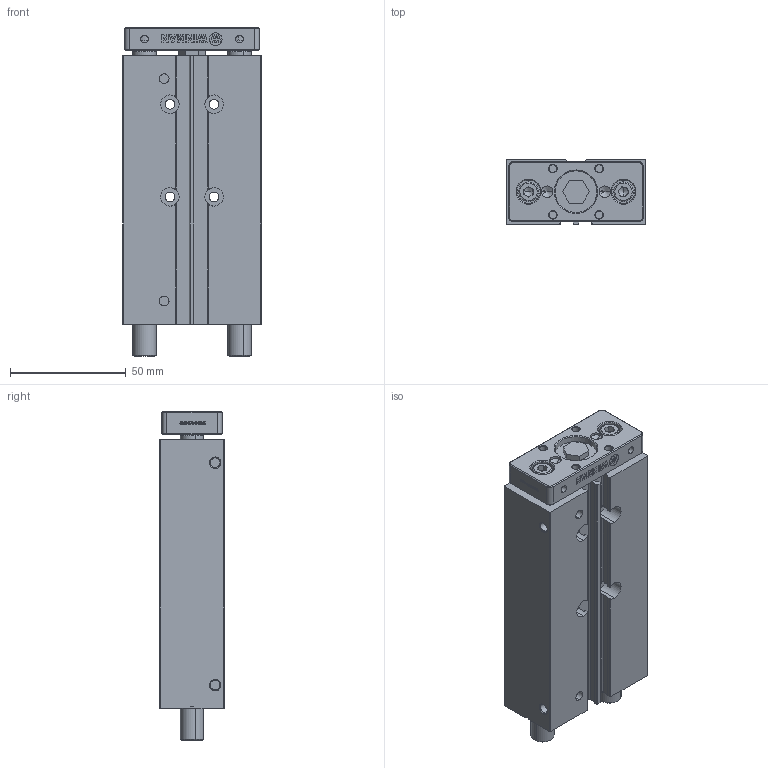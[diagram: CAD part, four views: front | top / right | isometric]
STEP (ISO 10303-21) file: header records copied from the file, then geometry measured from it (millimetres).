
FILE_DESCRIPTION (( 'STEP AP214' ), '1' );
FILE_NAME ('WGC-B-012-0080 (3D).STEP', '2018-10-23T15:33:05', ( 'Hidtek' ), ( '' ), 'SwSTEP 2.0', 'SolidWorks 2016', '' );
FILE_SCHEMA (( 'AUTOMOTIVE_DESIGN' ));
Length unit declared in the file: millimetre
Products named in the file (3): WGC-B-012-0080 (3D); Group1^WGC-B-012-0080 (3D); Group2^WGC-B-012-0080 (3D)
Assembly tree (2 placements, depth 2):
  WGC-B-012-0080 (3D)
    Group1^WGC-B-012-0080 (3D)
    Group2^WGC-B-012-0080 (3D)
Bounding box: 60 x 28 x 142 mm (x, y, z)
Volume: 191208.4 mm3; surface area: 59102 mm2
Topology: 11 solids, 11 shells, 631 faces, 1581 edges, 1003 vertices
Faces by surface type: plane 295, cylinder 159, bspline 99, cone 78
Entity records: 26154 total; most frequent: CARTESIAN_POINT 9381, ORIENTED_EDGE 3102, DIRECTION 2757, EDGE_CURVE 1551, VERTEX_POINT 1003, VECTOR 951, LINE 951, AXIS2_PLACEMENT_3D 903
